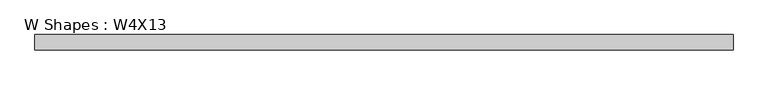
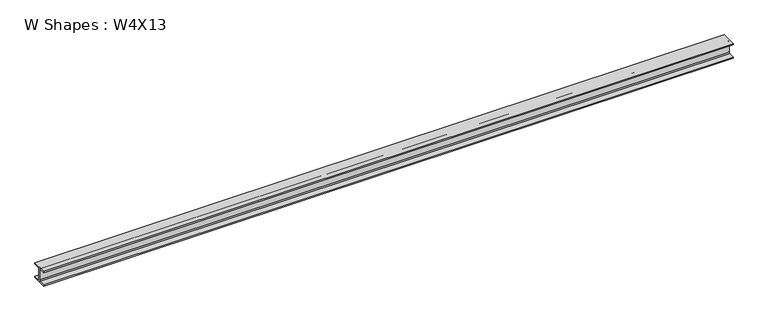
"""IFC4 building model written with IfcOpenShell, lengths in millimetres: beam geometry, W Shapes : W4X13."""

from ifc_helpers import new_model, si_unit, point, frame, frame_2d, origin, place, context, project, spatial, polyline, circle_curve, trimmed, segment, composite_curve, outline, extrude, source, transform, mapped, element, save


def w_shapes_w4x13_65f9b636(model_context):
    return source(origin(), model_context, "Body", "SweptSolid", [
        extrude(outline(composite_curve([segment(polyline([(-51.562, -44.069), (-9.906, -44.069)]), True, "CONTINUOUS"), segment(trimmed(circle_curve(frame_2d((-9.906, -37.719)), 6.35), [point((-9.906, -44.069))], [point((-3.556, -37.719))], True, "CARTESIAN"), True, "CONTINUOUS"), segment(polyline([(-3.556, -37.719), (-3.556, 37.719)]), True, "CONTINUOUS"), segment(trimmed(circle_curve(frame_2d((-9.906, 37.719)), 6.35), [point((-3.556, 37.719))], [point((-9.906, 44.069))], True, "CARTESIAN"), True, "CONTINUOUS"), segment(polyline([(-9.906, 44.069), (-51.562, 44.069), (-51.562, 52.832), (51.562, 52.832), (51.562, 44.069), (9.906, 44.069)]), True, "CONTINUOUS"), segment(trimmed(circle_curve(frame_2d((9.906, 37.719)), 6.35), [point((9.906, 44.069))], [point((3.556, 37.719))], True, "CARTESIAN"), True, "CONTINUOUS"), segment(polyline([(3.556, 37.719), (3.556, -37.719)]), True, "CONTINUOUS"), segment(trimmed(circle_curve(frame_2d((9.906, -37.719)), 6.35), [point((3.556, -37.719))], [point((9.906, -44.069))], True, "CARTESIAN"), True, "CONTINUOUS"), segment(polyline([(9.906, -44.069), (51.562, -44.069), (51.562, -52.832), (-51.562, -52.832), (-51.562, -44.069)]), True, "CONTINUOUS")], self_intersect=False)), frame((-2352.548, 0.0, 0.0), z_axis=(1.0, 0.0, 0.0), x_axis=(0.0, 1.0, 0.0)), (0.0, 0.0, 1.0), 4705.096),
    ])


if __name__ == "__main__":
    model = new_model("IFC4")
    model_context = context("Model", 3, world=origin())
    ifc_project = project(units=[si_unit("LENGTHUNIT", "METRE", prefix="MILLI")], contexts=[model_context])
    site = spatial("IfcSite", under=ifc_project)
    building = spatial("IfcBuilding", under=site)
    placement = place(None, origin())
    w_shapes_w4x13_shape = w_shapes_w4x13_65f9b636(model_context)
    element("IfcBeam", 1, ObjectType="W Shapes : W4X13", at=placement, inside=building, context=model_context, shape_type="MappedRepresentation", body=[
        mapped(w_shapes_w4x13_shape, transform((0.0, 0.0, 0.0), x_axis=(1.0, 0.0, 0.0), y_axis=(0.0, 1.0, 0.0), z_axis=(0.0, 0.0, 1.0))),
    ])
    save(model, "model.ifc")
